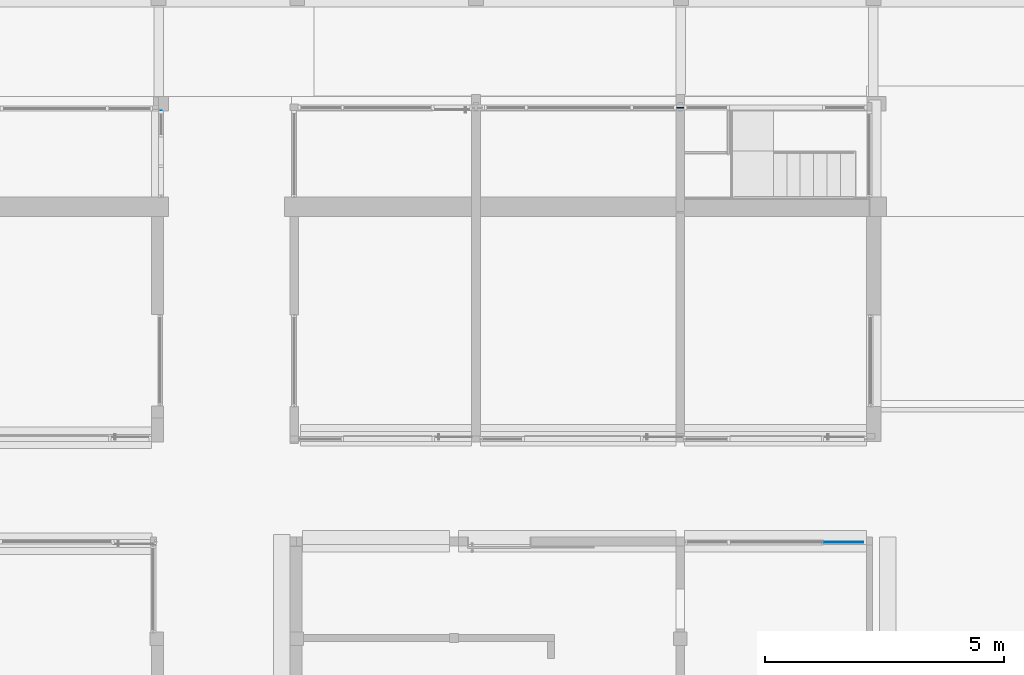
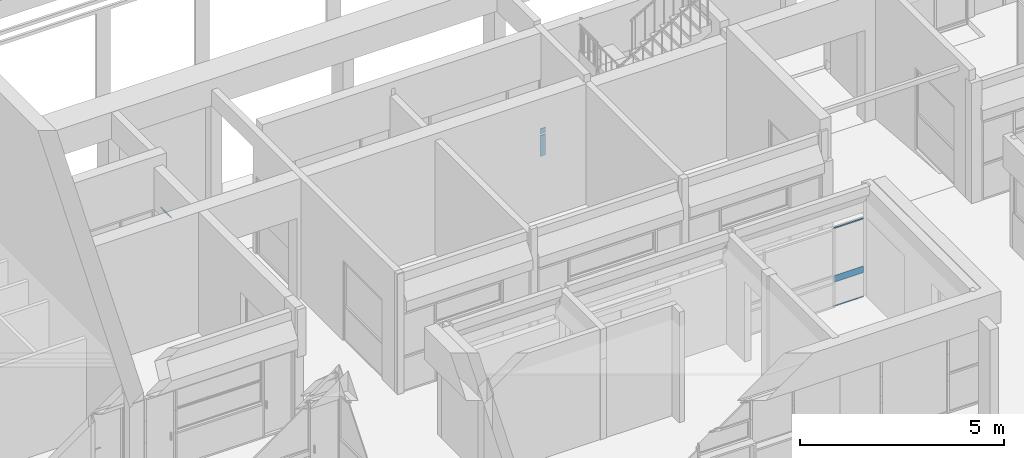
# One storey, part 49 of 117: 6 plates, 3 elements without a shape of their own.
"""IFC4 building model written with IfcOpenShell, lengths in metres."""

from ifc_helpers import new_model, entity, si_unit, converted_unit, derived_unit, direction, frame, origin, place, context, subcontext, project, spatial, indexed_curve, outline, extrude, source, transform, mapped, material, type_object, type_shapes, element, aggregate, save


model = new_model("IFC4")

# Units and contexts
model_context = context("Model", 3, precision=1e-05, world=origin(), true_north=direction((6.123031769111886e-17, 1.0)))
body_context = subcontext(model_context, "Body", "Model", "MODEL_VIEW")
ifc_project = project(units=[si_unit("LENGTHUNIT", "METRE"), si_unit("AREAUNIT", "SQUARE_METRE"), si_unit("VOLUMEUNIT", "CUBIC_METRE"), converted_unit("PLANEANGLEUNIT", "DEGREE", entity("IfcRatioMeasure", 0.017453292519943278), si_unit("PLANEANGLEUNIT", "RADIAN"), dimensions=[0, 0, 0, 0, 0, 0, 0]), si_unit("MASSUNIT", "GRAM", prefix="KILO"), derived_unit("MASSDENSITYUNIT", [(si_unit("MASSUNIT", "GRAM", prefix="KILO"), 1), (si_unit("LENGTHUNIT", "METRE"), -3)]), derived_unit("MOMENTOFINERTIAUNIT", [(si_unit("LENGTHUNIT", "METRE"), 4)]), si_unit("TIMEUNIT", "SECOND"), si_unit("FREQUENCYUNIT", "HERTZ"), si_unit("THERMODYNAMICTEMPERATUREUNIT", "DEGREE_CELSIUS"), derived_unit("THERMALTRANSMITTANCEUNIT", [(si_unit("MASSUNIT", "GRAM", prefix="KILO"), 1), (si_unit("THERMODYNAMICTEMPERATUREUNIT", "KELVIN"), -1), (si_unit("TIMEUNIT", "SECOND"), -3)]), derived_unit("VOLUMETRICFLOWRATEUNIT", [(si_unit("LENGTHUNIT", "METRE"), 3), (si_unit("TIMEUNIT", "SECOND"), -1)]), derived_unit("MASSFLOWRATEUNIT", [(si_unit("MASSUNIT", "GRAM", prefix="KILO"), 1), (si_unit("TIMEUNIT", "SECOND"), -1)]), derived_unit("ROTATIONALFREQUENCYUNIT", [(si_unit("TIMEUNIT", "SECOND"), -1)]), si_unit("ELECTRICCURRENTUNIT", "AMPERE"), si_unit("ELECTRICVOLTAGEUNIT", "VOLT"), si_unit("POWERUNIT", "WATT"), si_unit("FORCEUNIT", "NEWTON", prefix="KILO"), si_unit("ILLUMINANCEUNIT", "LUX"), si_unit("LUMINOUSFLUXUNIT", "LUMEN"), si_unit("LUMINOUSINTENSITYUNIT", "CANDELA"), derived_unit("USERDEFINED", [(si_unit("MASSUNIT", "GRAM", prefix="KILO"), -1), (si_unit("LENGTHUNIT", "METRE"), -2), (si_unit("TIMEUNIT", "SECOND"), 3), (si_unit("LUMINOUSFLUXUNIT", "LUMEN"), 1)]), derived_unit("SOUNDPOWERUNIT", [(si_unit("MASSUNIT", "GRAM", prefix="KILO"), 1), (si_unit("LENGTHUNIT", "METRE"), 2), (si_unit("TIMEUNIT", "SECOND"), -3)]), derived_unit("SOUNDPRESSUREUNIT", [(si_unit("MASSUNIT", "GRAM", prefix="KILO"), 1), (si_unit("LENGTHUNIT", "METRE"), -1), (si_unit("TIMEUNIT", "SECOND"), -2)]), derived_unit("LINEARVELOCITYUNIT", [(si_unit("LENGTHUNIT", "METRE"), 1), (si_unit("TIMEUNIT", "SECOND"), -1)]), si_unit("PRESSUREUNIT", "PASCAL"), derived_unit("USERDEFINED", [(si_unit("LENGTHUNIT", "METRE"), -2), (si_unit("MASSUNIT", "GRAM", prefix="KILO"), 1), (si_unit("TIMEUNIT", "SECOND"), -2)]), derived_unit("LINEARFORCEUNIT", [(si_unit("MASSUNIT", "GRAM", prefix="KILO"), 1), (si_unit("LENGTHUNIT", "METRE"), 1), (si_unit("TIMEUNIT", "SECOND"), -2), (si_unit("LENGTHUNIT", "METRE"), -1)]), derived_unit("PLANARFORCEUNIT", [(si_unit("MASSUNIT", "GRAM", prefix="KILO"), 1), (si_unit("LENGTHUNIT", "METRE"), 1), (si_unit("TIMEUNIT", "SECOND"), -2), (si_unit("LENGTHUNIT", "METRE"), -2)])], contexts=[model_context])

# Site, building, storey
site_placement = place(None, origin())
site = spatial("IfcSite", under=ifc_project, at=site_placement, Name="Superficie", CompositionType="ELEMENT")
building_placement = place(site_placement, origin())
building = spatial("IfcBuilding", under=site, at=building_placement, CompositionType="ELEMENT")
storey_placement = place(building_placement, origin())
storey = spatial("IfcBuildingStorey", under=building, at=storey_placement, Name="Nivel 0", CompositionType="ELEMENT", Elevation=0.0)

# Curtain wall, plate
curtain_wall_type = type_object("IfcCurtainWallType", Name="Muro cortina:Muro cortina - simple", PredefinedType="NOTDEFINED")
curtain_wall_1_placement = place(storey_placement, origin())
curtain_wall_1 = element("IfcCurtainWall", 1, at=curtain_wall_1_placement, inside=storey, type_object=curtain_wall_type, Name="Muro cortina:Muro cortina - simple", ObjectType="Muro cortina:Muro cortina - simple", PredefinedType="NOTDEFINED")
ifc_material = material(Name="Cristal", Category="Vidrio")
plate_type_1 = type_object("IfcPlateType", Name="Panel de sistema:Acristalado", PredefinedType="CURTAIN_PANEL", material=ifc_material)
shared_shape_1 = source(origin(), body_context, "Body", "SweptSolid", [
    extrude(outline(indexed_curve([(-0.01, -0.2617901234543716), (0.01, -0.2617901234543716), (0.01, 0.2617901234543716), (-0.01, 0.2617901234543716), (-0.01, -0.2617901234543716)], self_intersect=False)), frame((0.0, 0.0, 0.0), z_axis=(0.0, 0.0, 1.0), x_axis=(0.0, 1.0, 0.0)), (0.0, 0.0, 1.0), 0.01999999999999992),
])
type_shapes(plate_type_1, [shared_shape_1])
plate_1_placement = place(curtain_wall_1_placement, frame((-18.193200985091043, 12.309039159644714, 2.33), z_axis=(0.0, 0.0, 1.0), x_axis=(0.0, 1.0, 0.0)))
plate_1 = element("IfcPlate", 2, at=plate_1_placement, type_object=plate_type_1, material=ifc_material, Name="Panel de sistema:Acristalado", ObjectType="Panel de sistema:Acristalado", PredefinedType="CURTAIN_PANEL", context=body_context, shape_type="MappedRepresentation", body=[
    mapped(shared_shape_1, transform((0.0, 0.0, 0.0), scale=1.0)),
])
aggregate(curtain_wall_1, [plate_1])

# Curtain wall, plates
curtain_wall_2_placement = place(storey_placement, origin())
curtain_wall_2 = element("IfcCurtainWall", 3, at=curtain_wall_2_placement, inside=storey, type_object=curtain_wall_type, Name="Muro cortina:Muro cortina - simple", ObjectType="Muro cortina:Muro cortina - simple", PredefinedType="NOTDEFINED")
plate_type_2 = type_object("IfcPlateType", Name="Panel de sistema:Acristalado", PredefinedType="CURTAIN_PANEL", material=ifc_material)
shared_shape_2 = source(origin(), body_context, "Body", "SweptSolid", [
    extrude(outline(indexed_curve([(-0.01, -0.4274999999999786), (0.01, -0.4274999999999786), (0.01, 0.4274999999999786), (-0.01, 0.4274999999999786), (-0.01, -0.4274999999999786)], self_intersect=False)), frame((0.0, 0.0, 0.0), z_axis=(0.0, 0.0, 1.0), x_axis=(0.0, 1.0, 0.0)), (0.0, 0.0, 1.0), 0.020000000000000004),
])
type_shapes(plate_type_2, [shared_shape_2])
plate_2_placement = place(curtain_wall_2_placement, frame((-3.9457009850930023, 3.555829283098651, 0.0), z_axis=(0.0, 0.0, 1.0), x_axis=(-1.0, 0.0, 0.0)))
plate_2 = element("IfcPlate", 4, at=plate_2_placement, type_object=plate_type_2, material=ifc_material, Name="Panel de sistema:Acristalado", ObjectType="Panel de sistema:Acristalado", PredefinedType="CURTAIN_PANEL", context=body_context, shape_type="MappedRepresentation", body=[
    mapped(shared_shape_2, transform((0.0, 0.0, 0.0), scale=1.0)),
])
plate_3_placement = place(curtain_wall_2_placement, frame((-3.9457009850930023, 3.555829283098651, 2.3299999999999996), z_axis=(0.0, 0.0, 1.0), x_axis=(-1.0, 0.0, 0.0)))
plate_3 = element("IfcPlate", 5, at=plate_3_placement, type_object=plate_type_2, material=ifc_material, Name="Panel de sistema:Acristalado", ObjectType="Panel de sistema:Acristalado", PredefinedType="CURTAIN_PANEL", context=body_context, shape_type="MappedRepresentation", body=[
    mapped(shared_shape_2, transform((0.0, 0.0, 0.0), scale=1.0)),
])
plate_type_3 = type_object("IfcPlateType", Name="Panel de sistema:Acristalado", PredefinedType="CURTAIN_PANEL", material=ifc_material)
shared_shape_3 = source(origin(), body_context, "Body", "SweptSolid", [
    extrude(outline(indexed_curve([(-0.01, -0.4149999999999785), (0.01, -0.4149999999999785), (0.01, 0.4149999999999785), (-0.01, 0.4149999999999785), (-0.01, -0.4149999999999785)], self_intersect=False)), frame((0.0, 0.0, 0.0), z_axis=(0.0, 0.0, 1.0), x_axis=(0.0, 1.0, 0.0)), (0.0, 0.0, 1.0), 0.19999999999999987),
])
type_shapes(plate_type_3, [shared_shape_3])
plate_4_placement = place(curtain_wall_2_placement, frame((-3.9332009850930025, 3.555829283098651, 0.7199999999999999), z_axis=(0.0, 0.0, 1.0), x_axis=(-1.0, 0.0, 0.0)))
plate_4 = element("IfcPlate", 6, at=plate_4_placement, type_object=plate_type_3, material=ifc_material, Name="Panel de sistema:Acristalado", ObjectType="Panel de sistema:Acristalado", PredefinedType="CURTAIN_PANEL", context=body_context, shape_type="MappedRepresentation", body=[
    mapped(shared_shape_3, transform((0.0, 0.0, 0.0), scale=1.0)),
])
aggregate(curtain_wall_2, [plate_2, plate_4, plate_3])

curtain_wall_3_placement = place(storey_placement, origin())
curtain_wall_3 = element("IfcCurtainWall", 7, at=curtain_wall_3_placement, inside=storey, type_object=curtain_wall_type, Name="Muro cortina:Muro cortina - simple", ObjectType="Muro cortina:Muro cortina - simple", PredefinedType="NOTDEFINED")
plate_type_4 = type_object("IfcPlateType", Name="Panel de sistema:Acristalado", PredefinedType="CURTAIN_PANEL", material=ifc_material)
shared_shape_4 = source(origin(), body_context, "Body", "SweptSolid", [
    extrude(outline(indexed_curve([(-0.01, -0.07750000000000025), (0.01, -0.07750000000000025), (0.01, 0.07750000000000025), (-0.01, 0.07750000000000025), (-0.01, -0.07750000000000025)], self_intersect=False)), frame((0.0, 0.0, 0.0), z_axis=(0.0, 0.0, 1.0), x_axis=(0.0, 1.0, 0.0)), (0.0, 0.0, 1.0), 0.625),
])
type_shapes(plate_type_4, [shared_shape_4])
plate_5_placement = place(curtain_wall_3_placement, frame((-7.344888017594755, 12.640829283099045, 0.05), z_axis=(0.0, 0.0, 1.0), x_axis=(-1.0, 0.0, 0.0)))
plate_5 = element("IfcPlate", 8, at=plate_5_placement, type_object=plate_type_4, material=ifc_material, Name="Panel de sistema:Acristalado", ObjectType="Panel de sistema:Acristalado", PredefinedType="CURTAIN_PANEL", context=body_context, shape_type="MappedRepresentation", body=[
    mapped(shared_shape_4, transform((0.0, 0.0, 0.0), scale=1.0)),
])
plate_type_5 = type_object("IfcPlateType", Name="Panel de sistema:Acristalado", PredefinedType="CURTAIN_PANEL", material=ifc_material)
shared_shape_5 = source(origin(), body_context, "Body", "SweptSolid", [
    extrude(outline(indexed_curve([(-0.01, -0.07750000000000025), (0.01, -0.07750000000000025), (0.01, 0.07750000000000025), (-0.01, 0.07750000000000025), (-0.01, -0.07750000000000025)], self_intersect=False)), frame((0.0, 0.0, 0.0), z_axis=(0.0, 0.0, 1.0), x_axis=(0.0, 1.0, 0.0)), (0.0, 0.0, 1.0), 0.14999999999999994),
])
type_shapes(plate_type_5, [shared_shape_5])
plate_6_placement = place(curtain_wall_3_placement, frame((-7.344888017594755, 12.640829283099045, 0.7249999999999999), z_axis=(0.0, 0.0, 1.0), x_axis=(-1.0, 0.0, 0.0)))
plate_6 = element("IfcPlate", 9, at=plate_6_placement, type_object=plate_type_5, material=ifc_material, Name="Panel de sistema:Acristalado", ObjectType="Panel de sistema:Acristalado", PredefinedType="CURTAIN_PANEL", context=body_context, shape_type="MappedRepresentation", body=[
    mapped(shared_shape_5, transform((0.0, 0.0, 0.0), scale=1.0)),
])
aggregate(curtain_wall_3, [plate_5, plate_6])

save(model, "model.ifc")
